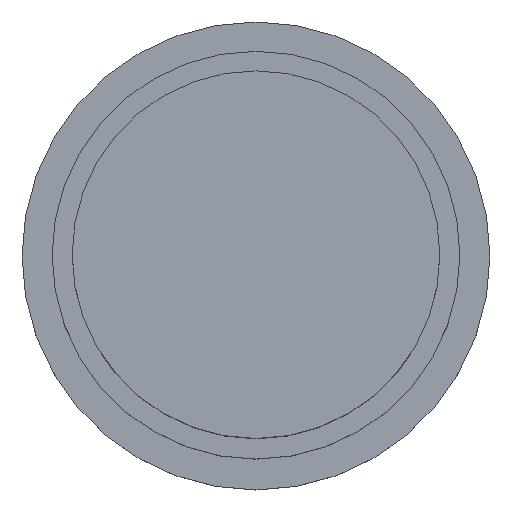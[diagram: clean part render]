
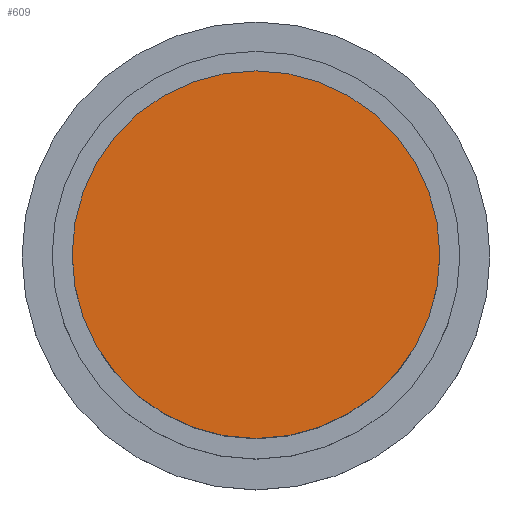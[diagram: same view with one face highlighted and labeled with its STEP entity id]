
A CAD part, top view. The second image highlights one B-rep face of the part: STEP entity #609.
In plain terms, the highlighted planar face has unit normal (0, 0, 1).
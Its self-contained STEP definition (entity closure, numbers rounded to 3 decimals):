
#525 = EDGE_CURVE('',#526,#526,#528,.T.);
#526 = VERTEX_POINT('',#527);
#527 = CARTESIAN_POINT('',(2.75,0.,9.521));
#528 = SURFACE_CURVE('',#529,(#534,#546),.PCURVE_S1.);
#529 = CIRCLE('',#530,2.75);
#530 = AXIS2_PLACEMENT_3D('',#531,#532,#533);
#531 = CARTESIAN_POINT('',(0.,0.,9.521));
#532 = DIRECTION('',(0.,0.,1.));
#533 = DIRECTION('',(1.,0.,-0.));
#534 = PCURVE('',#535,#540);
#535 = CYLINDRICAL_SURFACE('',#536,2.75);
#536 = AXIS2_PLACEMENT_3D('',#537,#538,#539);
#537 = CARTESIAN_POINT('',(0.,0.,6.521));
#538 = DIRECTION('',(0.,0.,1.));
#539 = DIRECTION('',(1.,0.,-0.));
#540 = DEFINITIONAL_REPRESENTATION('',(#541),#545);
#541 = LINE('',#542,#543);
#542 = CARTESIAN_POINT('',(0.,3.));
#543 = VECTOR('',#544,1.);
#544 = DIRECTION('',(1.,0.));
#545 = ( GEOMETRIC_REPRESENTATION_CONTEXT(2) 
PARAMETRIC_REPRESENTATION_CONTEXT() REPRESENTATION_CONTEXT('2D SPACE',''
  ) );
#546 = PCURVE('',#547,#552);
#547 = PLANE('',#548);
#548 = AXIS2_PLACEMENT_3D('',#549,#550,#551);
#549 = CARTESIAN_POINT('',(0.,0.,9.521));
#550 = DIRECTION('',(0.,0.,1.));
#551 = DIRECTION('',(1.,0.,-0.));
#552 = DEFINITIONAL_REPRESENTATION('',(#553),#557);
#553 = CIRCLE('',#554,2.75);
#554 = AXIS2_PLACEMENT_2D('',#555,#556);
#555 = CARTESIAN_POINT('',(0.,0.));
#556 = DIRECTION('',(1.,0.));
#557 = ( GEOMETRIC_REPRESENTATION_CONTEXT(2) 
PARAMETRIC_REPRESENTATION_CONTEXT() REPRESENTATION_CONTEXT('2D SPACE',''
  ) );
#609 = ADVANCED_FACE('',(#610),#547,.T.);
#610 = FACE_BOUND('',#611,.T.);
#611 = EDGE_LOOP('',(#612));
#612 = ORIENTED_EDGE('',*,*,#525,.T.);
